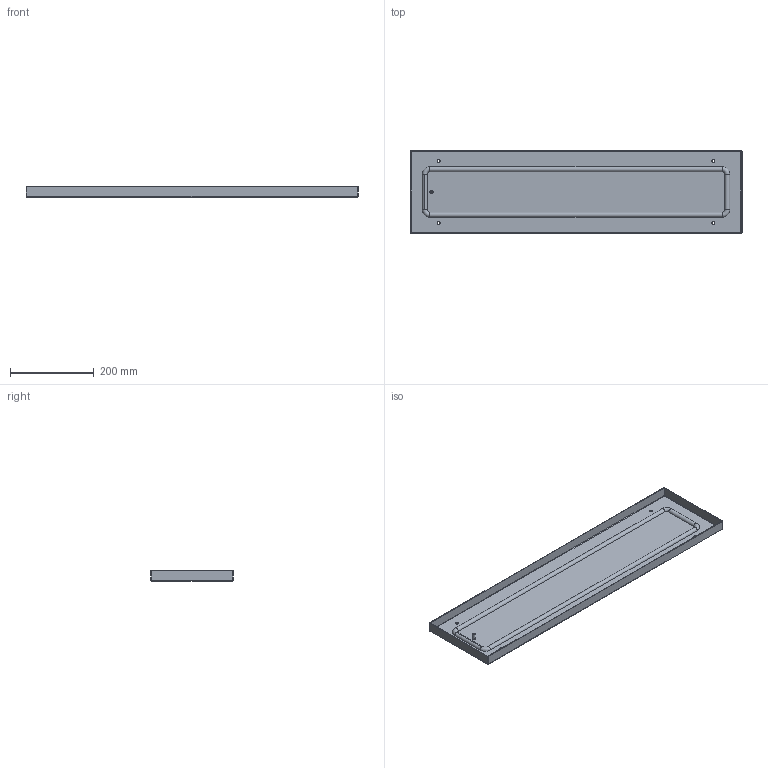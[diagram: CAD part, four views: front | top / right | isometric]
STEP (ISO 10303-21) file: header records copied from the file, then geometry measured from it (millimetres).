
FILE_DESCRIPTION (( 'STEP AP203' ), '1' );
FILE_NAME ('EUPN000800.STEP', '2018-07-12T13:05:57', ( '' ), ( '' ), 'SwSTEP 2.0', 'SolidWorks 2017', '' );
FILE_SCHEMA (( 'CONFIG_CONTROL_DESIGN' ));
Length unit declared in the file: millimetre
Products named in the file (1): EUPN000800
Bounding box: 794 x 198 x 24.5 mm (x, y, z)
Volume: 394926 mm3; surface area: 416708.4 mm2
Topology: 1 solids, 1 shells, 53 faces, 127 edges, 76 vertices
Faces by surface type: cylinder 29, plane 14, torus 4, bspline 4, cone 2
Entity records: 1746 total; most frequent: CARTESIAN_POINT 453, DIRECTION 263, ORIENTED_EDGE 246, EDGE_CURVE 123, AXIS2_PLACEMENT_3D 102, VERTEX_POINT 76, EDGE_LOOP 65, VECTOR 59
